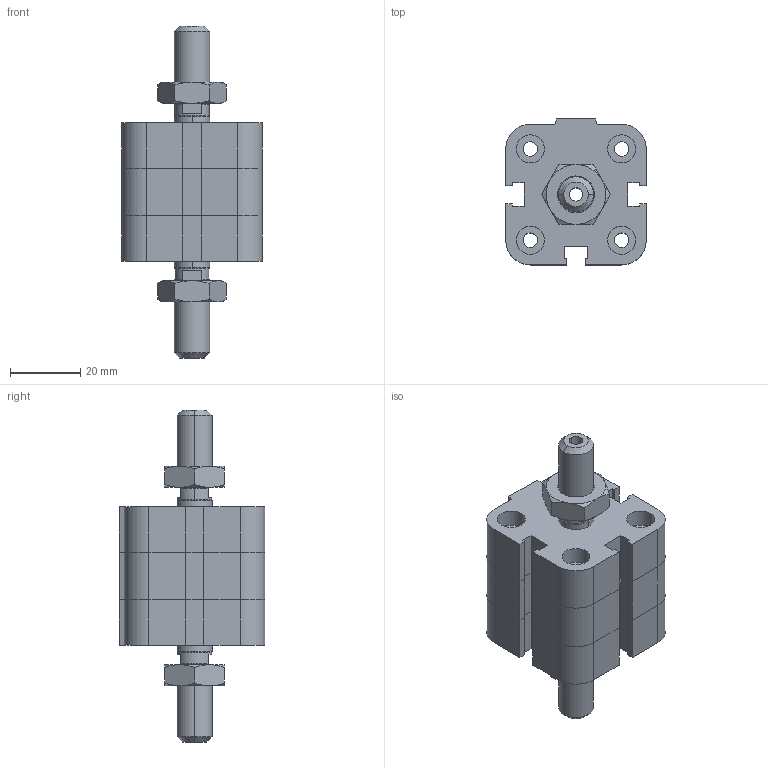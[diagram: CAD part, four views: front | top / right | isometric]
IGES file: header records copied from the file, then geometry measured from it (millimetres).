
Global section: file name: No Iges File Name specified; native system: Autodesk Inventor 2009; preprocessor: AutoDesk Inventor Iges Exporter R2009; author: maffial1; date: 20090420.142649; units: millimetre
Bounding box: 40 x 41.5 x 94.5 mm (x, y, z)
Volume: 59886.8 mm3; surface area: 20074.3 mm2
Topology: 4 solids, 4 shells, 246 faces, 556 edges, 330 vertices
Faces by surface type: plane 125, bspline 49, cone 38, cylinder 22, revolution 12
